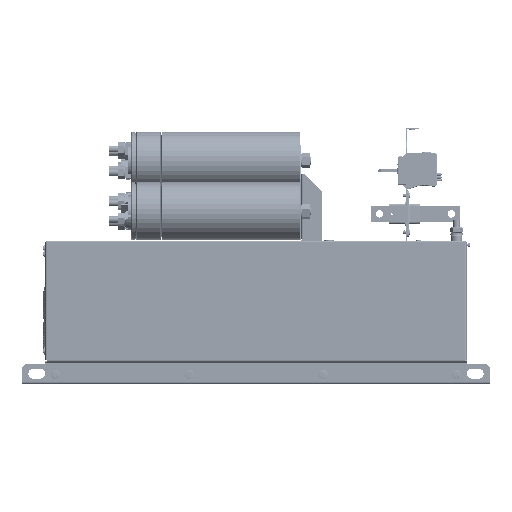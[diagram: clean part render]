
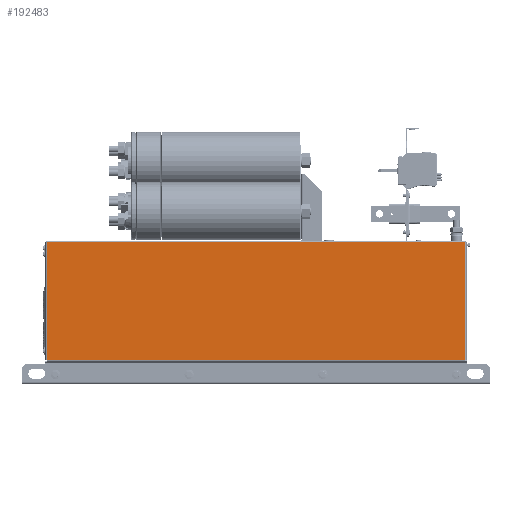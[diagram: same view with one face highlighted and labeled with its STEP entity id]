
A CAD part, left-side view. The second image highlights one B-rep face of the part: STEP entity #192483.
In plain terms, the highlighted planar face has unit normal (-1, 0, 0).
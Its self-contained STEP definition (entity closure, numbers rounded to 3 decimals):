
#8793=PLANE('',#206140);
#17636=FACE_OUTER_BOUND('',#28417,.T.);
#28417=EDGE_LOOP('',(#157339,#157340,#157341,#157342));
#45579=LINE('',#308807,#64716);
#45690=LINE('',#309102,#64827);
#45748=LINE('',#309481,#64885);
#45749=LINE('',#309482,#64886);
#64716=VECTOR('',#244924,10.);
#64827=VECTOR('',#245151,10.);
#64885=VECTOR('',#245287,10.);
#64886=VECTOR('',#245288,10.);
#88845=VERTEX_POINT('',#308800);
#88848=VERTEX_POINT('',#308805);
#88947=VERTEX_POINT('',#309088);
#89010=VERTEX_POINT('',#309480);
#112670=EDGE_CURVE('',#88845,#88848,#45579,.T.);
#112807=EDGE_CURVE('',#88848,#88947,#45690,.T.);
#112901=EDGE_CURVE('',#88845,#89010,#45748,.T.);
#112902=EDGE_CURVE('',#89010,#88947,#45749,.T.);
#157339=ORIENTED_EDGE('',*,*,#112901,.F.);
#157340=ORIENTED_EDGE('',*,*,#112670,.T.);
#157341=ORIENTED_EDGE('',*,*,#112807,.T.);
#157342=ORIENTED_EDGE('',*,*,#112902,.F.);
#192483=ADVANCED_FACE('',(#17636),#8793,.F.);
#206140=AXIS2_PLACEMENT_3D('',#309479,#245285,#245286);
#244924=DIRECTION('',(0.,1.,0.));
#245151=DIRECTION('',(0.,0.,-1.));
#245285=DIRECTION('center_axis',(1.,0.,0.));
#245286=DIRECTION('ref_axis',(0.,0.,
-1.));
#245287=DIRECTION('',(0.,0.,-1.));
#245288=DIRECTION('',(0.,1.,0.));
#308800=CARTESIAN_POINT('',(-225.,-312.7,212.7));
#308805=CARTESIAN_POINT('',(-225.,312.7,212.7));
#308807=CARTESIAN_POINT('',(-225.,315.,212.7));
#309088=CARTESIAN_POINT('',(-225.,312.7,36.353));
#309102=CARTESIAN_POINT('',(-225.,312.7,116.05));
#309479=CARTESIAN_POINT('Origin',(-225.,-315.,35.4));
#309480=CARTESIAN_POINT('',(-225.,-312.7,36.353));
#309481=CARTESIAN_POINT('',(-225.,-312.7,196.71));
#309482=CARTESIAN_POINT('',(-225.,-315.,36.353));
